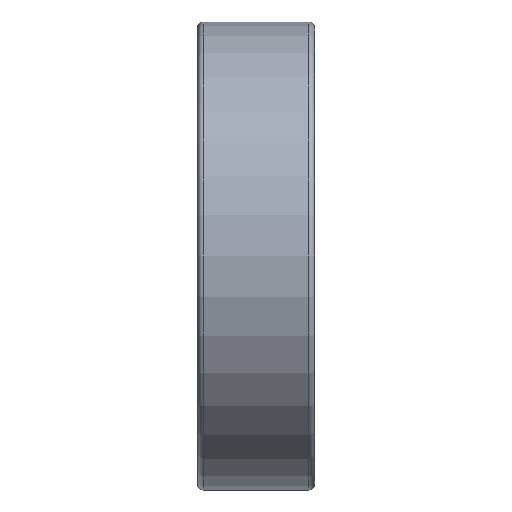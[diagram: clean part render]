
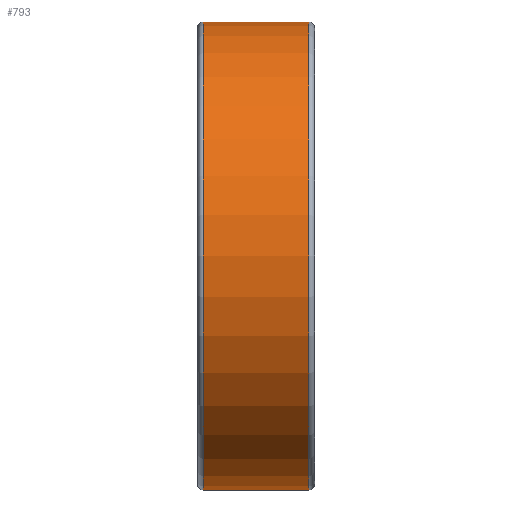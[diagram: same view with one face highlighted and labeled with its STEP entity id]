
A CAD part, front view. The second image highlights one B-rep face of the part: STEP entity #793.
In plain terms, the highlighted cylindrical face has radius 12 mm (diameter 24 mm), a full revolution.
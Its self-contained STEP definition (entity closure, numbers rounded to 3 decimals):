
#44=LINE('',#1526,#50);
#50=VECTOR('',#1245,12.);
#56=CYLINDRICAL_SURFACE('',#962,12.);
#132=FACE_OUTER_BOUND('',#195,.T.);
#195=EDGE_LOOP('',(#708,#709,#710,#711,#712,#713));
#296=CIRCLE('',#957,12.);
#297=CIRCLE('',#958,12.);
#300=CIRCLE('',#963,12.);
#301=CIRCLE('',#964,12.);
#415=VERTEX_POINT('',#1514);
#416=VERTEX_POINT('',#1515);
#418=VERTEX_POINT('',#1523);
#419=VERTEX_POINT('',#1524);
#516=EDGE_CURVE('',#415,#416,#296,.T.);
#517=EDGE_CURVE('',#416,#415,#297,.T.);
#520=EDGE_CURVE('',#418,#419,#300,.T.);
#521=EDGE_CURVE('',#418,#416,#44,.T.);
#522=EDGE_CURVE('',#419,#418,#301,.T.);
#708=ORIENTED_EDGE('',*,*,#520,.F.);
#709=ORIENTED_EDGE('',*,*,#521,.T.);
#710=ORIENTED_EDGE('',*,*,#516,.F.);
#711=ORIENTED_EDGE('',*,*,#517,.F.);
#712=ORIENTED_EDGE('',*,*,#521,.F.);
#713=ORIENTED_EDGE('',*,*,#522,.F.);
#793=ADVANCED_FACE('',(#132),#56,.T.);
#957=AXIS2_PLACEMENT_3D('',#1516,#1231,#1232);
#958=AXIS2_PLACEMENT_3D('',#1517,#1233,#1234);
#962=AXIS2_PLACEMENT_3D('',#1522,#1241,#1242);
#963=AXIS2_PLACEMENT_3D('',#1525,#1243,#1244);
#964=AXIS2_PLACEMENT_3D('',#1527,#1246,#1247);
#1231=DIRECTION('center_axis',(-1.,0.,0.));
#1232=DIRECTION('ref_axis',(0.,-1.,0.));
#1233=DIRECTION('center_axis',(-1.,0.,0.));
#1234=DIRECTION('ref_axis',(0.,-1.,0.));
#1241=DIRECTION('center_axis',(1.,0.,0.));
#1242=DIRECTION('ref_axis',(0.,1.,0.));
#1243=DIRECTION('center_axis',(1.,0.,0.));
#1244=DIRECTION('ref_axis',(0.,-1.,0.));
#1245=DIRECTION('',(-1.,0.,0.));
#1246=DIRECTION('center_axis',(1.,0.,0.));
#1247=DIRECTION('ref_axis',(0.,-1.,0.));
#1514=CARTESIAN_POINT('',(0.3,0.,12.));
#1515=CARTESIAN_POINT('',(0.3,-12.,0.));
#1516=CARTESIAN_POINT('Origin',(0.3,0.,0.));
#1517=CARTESIAN_POINT('Origin',(0.3,0.,0.));
#1522=CARTESIAN_POINT('Origin',(3.,0.,0.));
#1523=CARTESIAN_POINT('',(5.7,-12.,0.));
#1524=CARTESIAN_POINT('',(5.7,0.,12.));
#1525=CARTESIAN_POINT('Origin',(5.7,0.,0.));
#1526=CARTESIAN_POINT('',(3.,-12.,0.));
#1527=CARTESIAN_POINT('Origin',(5.7,0.,0.));
